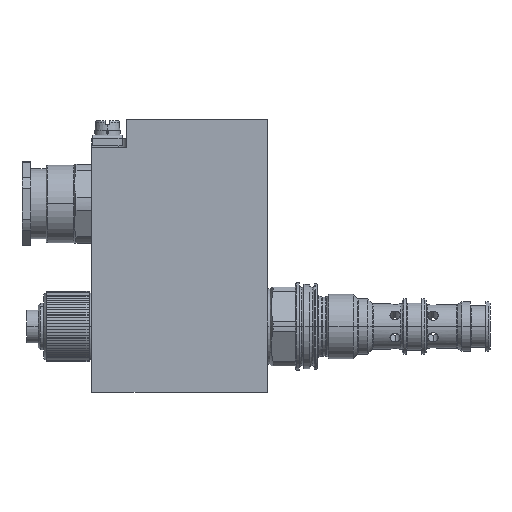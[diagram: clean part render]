
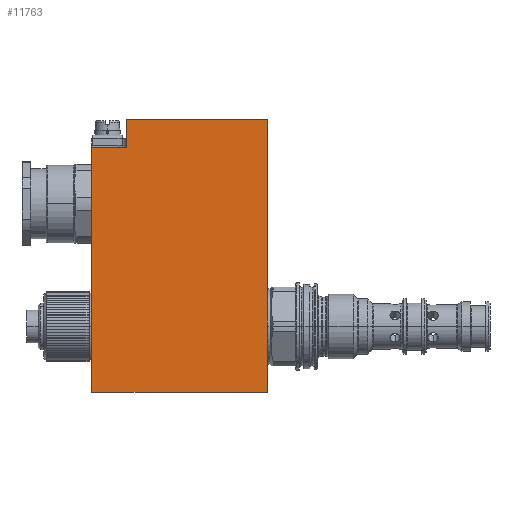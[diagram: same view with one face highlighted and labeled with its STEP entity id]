
A CAD part, top view. The second image highlights one B-rep face of the part: STEP entity #11763.
In plain terms, the highlighted planar face has unit normal (0, 0, 1).
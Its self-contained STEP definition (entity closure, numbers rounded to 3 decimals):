
#238 = EDGE_LOOP ( 'NONE', ( #27727, #26318, #29576, #34917, #34369, #30713 ) ) ;
#573 = CARTESIAN_POINT ( 'NONE',  ( 0., -22.5, 22.5 ) ) ;
#851 = DIRECTION ( 'NONE',  ( -1., 0., 0. ) ) ;
#2450 = LINE ( 'NONE', #39532, #34147 ) ;
#3984 = LINE ( 'NONE', #36087, #12253 ) ;
#4047 = VECTOR ( 'NONE', #4101, 1000. ) ;
#4101 = DIRECTION ( 'NONE',  ( 0., -1., 0. ) ) ;
#4514 = VERTEX_POINT ( 'NONE', #18638 ) ;
#5018 = LINE ( 'NONE', #37673, #4047 ) ;
#5192 = DIRECTION ( 'NONE',  ( -1., 0., 0. ) ) ;
#5238 = DIRECTION ( 'NONE',  ( 0., 0., -1. ) ) ;
#5281 = CARTESIAN_POINT ( 'NONE',  ( 0., -22.5, 22.5 ) ) ;
#5757 = PLANE ( 'NONE',  #22326 ) ;
#11763 = ADVANCED_FACE ( 'NONE', ( #39409 ), #5757, .F. ) ;
#12253 = VECTOR ( 'NONE', #14928, 1000. ) ;
#12505 = VERTEX_POINT ( 'NONE', #38536 ) ;
#13350 = LINE ( 'NONE', #13742, #20796 ) ;
#13742 = CARTESIAN_POINT ( 'NONE',  ( -60., 61.3, 22.5 ) ) ;
#14782 = EDGE_CURVE ( 'NONE', #12505, #18683, #15829, .T. ) ;
#14851 = EDGE_CURVE ( 'NONE', #22503, #4514, #16285, .T. ) ;
#14859 = EDGE_CURVE ( 'NONE', #12505, #22503, #5018, .T. ) ;
#14928 = DIRECTION ( 'NONE',  ( 0., -1., 0. ) ) ;
#15829 = LINE ( 'NONE', #18730, #25084 ) ;
#16285 = LINE ( 'NONE', #573, #39274 ) ;
#16932 = DIRECTION ( 'NONE',  ( 1., 0., 0. ) ) ;
#18638 = CARTESIAN_POINT ( 'NONE',  ( -60., -22.5, 22.5 ) ) ;
#18683 = VERTEX_POINT ( 'NONE', #36228 ) ;
#18730 = CARTESIAN_POINT ( 'NONE',  ( 0., 70.8, 22.5 ) ) ;
#20796 = VECTOR ( 'NONE', #16932, 1000. ) ;
#22326 = AXIS2_PLACEMENT_3D ( 'NONE', #5281, #5238, #5192 ) ;
#22503 = VERTEX_POINT ( 'NONE', #29641 ) ;
#23098 = EDGE_CURVE ( 'NONE', #31610, #36665, #13350, .T. ) ;
#24021 = EDGE_CURVE ( 'NONE', #31610, #4514, #3984, .T. ) ;
#24356 = EDGE_CURVE ( 'NONE', #36665, #18683, #2450, .T. ) ;
#24894 = CARTESIAN_POINT ( 'NONE',  ( -48., 61.3, 22.5 ) ) ;
#25084 = VECTOR ( 'NONE', #36695, 1000. ) ;
#26318 = ORIENTED_EDGE ( 'NONE', *, *, #24356, .F. ) ;
#26637 = DIRECTION ( 'NONE',  ( 0., 1., 0. ) ) ;
#27727 = ORIENTED_EDGE ( 'NONE', *, *, #14782, .T. ) ;
#29576 = ORIENTED_EDGE ( 'NONE', *, *, #23098, .F. ) ;
#29641 = CARTESIAN_POINT ( 'NONE',  ( 0., -22.5, 22.5 ) ) ;
#30713 = ORIENTED_EDGE ( 'NONE', *, *, #14859, .F. ) ;
#31610 = VERTEX_POINT ( 'NONE', #39648 ) ;
#34147 = VECTOR ( 'NONE', #26637, 1000. ) ;
#34369 = ORIENTED_EDGE ( 'NONE', *, *, #14851, .F. ) ;
#34917 = ORIENTED_EDGE ( 'NONE', *, *, #24021, .T. ) ;
#36087 = CARTESIAN_POINT ( 'NONE',  ( -60., -22.5, 22.5 ) ) ;
#36228 = CARTESIAN_POINT ( 'NONE',  ( -48., 70.8, 22.5 ) ) ;
#36665 = VERTEX_POINT ( 'NONE', #24894 ) ;
#36695 = DIRECTION ( 'NONE',  ( -1., 0., 0. ) ) ;
#37673 = CARTESIAN_POINT ( 'NONE',  ( 0., -22.5, 22.5 ) ) ;
#38536 = CARTESIAN_POINT ( 'NONE',  ( 0., 70.8, 22.5 ) ) ;
#39274 = VECTOR ( 'NONE', #851, 1000. ) ;
#39409 = FACE_OUTER_BOUND ( 'NONE', #238, .T. ) ;
#39532 = CARTESIAN_POINT ( 'NONE',  ( -48., 61.3, 22.5 ) ) ;
#39648 = CARTESIAN_POINT ( 'NONE',  ( -60., 61.3, 22.5 ) ) ;
